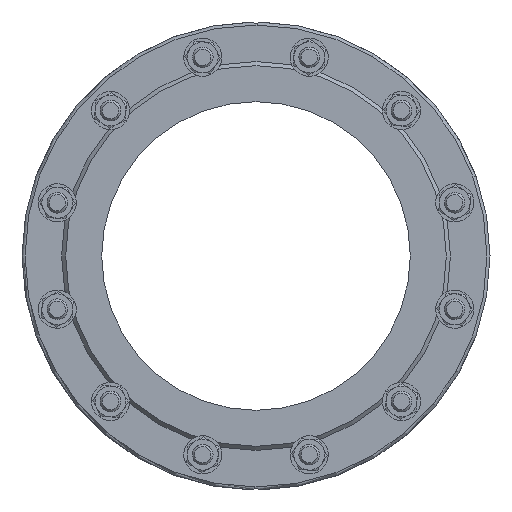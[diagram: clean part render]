
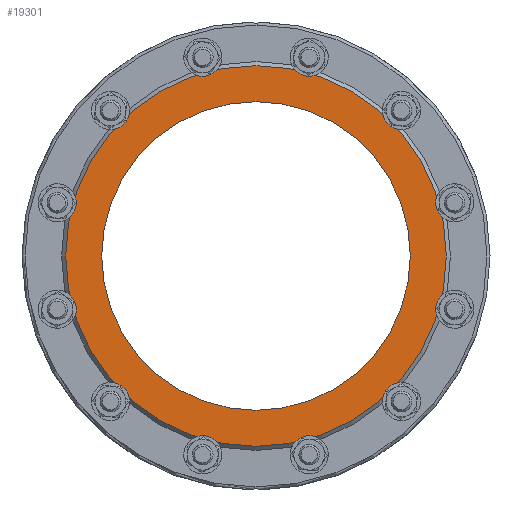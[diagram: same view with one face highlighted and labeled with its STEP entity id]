
A CAD part, left-side view. The second image highlights one B-rep face of the part: STEP entity #19301.
In plain terms, the highlighted planar face has unit normal (-1, 0, 0).
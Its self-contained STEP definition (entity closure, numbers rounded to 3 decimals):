
#33 = VERTEX_POINT ( 'NONE', #45254 ) ;
#500 = EDGE_LOOP ( 'NONE', ( #43447 ) ) ;
#2573 = DIRECTION ( 'NONE',  ( 0., 0., -1. ) ) ;
#6489 = CARTESIAN_POINT ( 'NONE',  ( -63., 0., 0. ) ) ;
#8996 = VERTEX_POINT ( 'NONE', #33149 ) ;
#9757 = FACE_BOUND ( 'NONE', #25820, .T. ) ;
#12669 = DIRECTION ( 'NONE',  ( 0., 0., 1. ) ) ;
#13451 = DIRECTION ( 'NONE',  ( -1., 0., 0. ) ) ;
#15327 = EDGE_CURVE ( 'NONE', #33, #33, #43603, .T. ) ;
#16730 = ORIENTED_EDGE ( 'NONE', *, *, #15327, .F. ) ;
#17144 = DIRECTION ( 'NONE',  ( 1., 0., 0. ) ) ;
#19301 = ADVANCED_FACE ( 'NONE', ( #9757, #41733 ), #28068, .F. ) ;
#25820 = EDGE_LOOP ( 'NONE', ( #16730 ) ) ;
#28068 = PLANE ( 'NONE',  #40879 ) ;
#29089 = AXIS2_PLACEMENT_3D ( 'NONE', #6489, #13451, #2573 ) ;
#30302 = DIRECTION ( 'NONE',  ( -1., 0., 0. ) ) ;
#33149 = CARTESIAN_POINT ( 'NONE',  ( -63., 0., -185. ) ) ;
#34114 = DIRECTION ( 'NONE',  ( 0., 0., 1. ) ) ;
#36120 = EDGE_CURVE ( 'NONE', #8996, #8996, #41726, .T. ) ;
#40500 = CARTESIAN_POINT ( 'NONE',  ( -63., 0., 0. ) ) ;
#40879 = AXIS2_PLACEMENT_3D ( 'NONE', #44753, #17144, #34114 ) ;
#41726 = CIRCLE ( 'NONE', #29089, 185. ) ;
#41733 = FACE_OUTER_BOUND ( 'NONE', #500, .T. ) ;
#42136 = AXIS2_PLACEMENT_3D ( 'NONE', #40500, #30302, #12669 ) ;
#43447 = ORIENTED_EDGE ( 'NONE', *, *, #36120, .T. ) ;
#43603 = CIRCLE ( 'NONE', #42136, 150. ) ;
#44753 = CARTESIAN_POINT ( 'NONE',  ( -63., -150., 0. ) ) ;
#45254 = CARTESIAN_POINT ( 'NONE',  ( -63., 0., 150. ) ) ;
